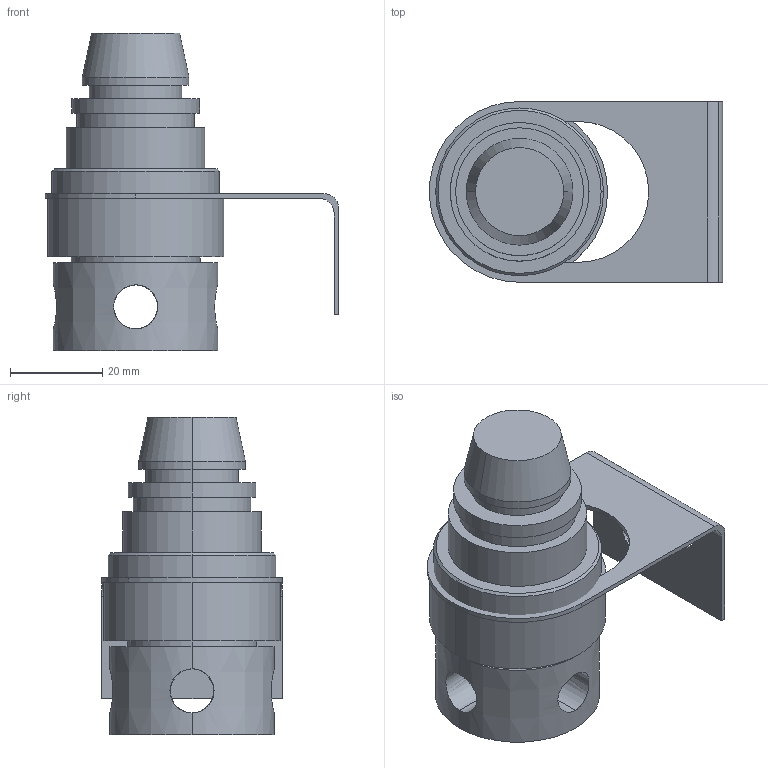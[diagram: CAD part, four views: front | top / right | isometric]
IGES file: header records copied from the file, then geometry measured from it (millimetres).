
Global section: file name: C:\Documents and Settings\Administrator\My Documents\PersonalProject\pressureregulator1.igs; native system: AutoDesk Inventor R2.0 ; preprocessor: AutoDesk Inventor Iges Exporter R2.0; author: No Author specified; organization: No Organization specified; date: 20020115.194234; units: inch
Bounding box: 63.47 x 39.12 x 68.77 mm (x, y, z)
Surface area: 20772.4 mm2 (no closed solid volume)
Topology: 0 solids, 0 shells, 71 faces, 322 edges, 322 vertices
Faces by surface type: revolution 48, bspline 23
